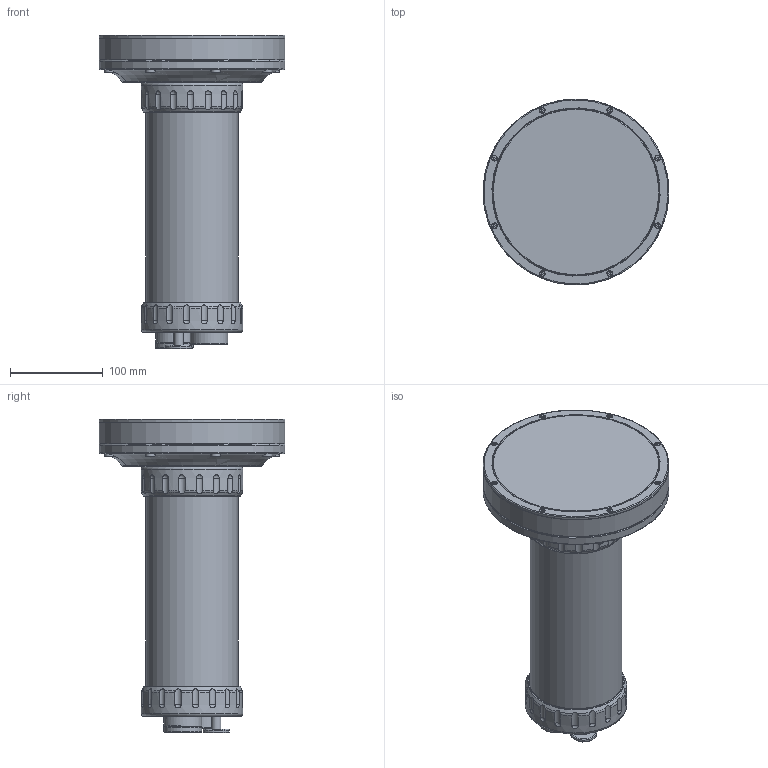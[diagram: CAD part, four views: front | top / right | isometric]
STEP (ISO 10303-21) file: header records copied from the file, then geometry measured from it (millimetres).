
FILE_DESCRIPTION (( 'STEP AP214' ), '1' );
FILE_NAME ('SeaKing Parametric Sub-Bottom Profiler.STEP', '2014-12-10T12:00:56', ( 'Allan' ), ( 'Microsoft' ), 'SwSTEP 2.0', 'SolidWorks 2013', '' );
FILE_SCHEMA (( 'AUTOMOTIVE_DESIGN' ));
Length unit declared in the file: inch
Products named in the file (1): SeaKing Parametric Sub-Bottom Profiler
Bounding box: 200 x 200 x 337.6 mm (x, y, z)
Surface area: 218002.5 mm2 (no closed solid volume)
Topology: 0 solids, 57 shells, 439 faces, 1670 edges, 1211 vertices
Faces by surface type: plane 169, cylinder 109, torus 64, cone 51, sphere 43, bspline 3
Full cylindrical faces by diameter (mm): 1.5 x6, 3.43 x8, 7 x7, 9.8 x1, 10 x10, 11 x7, 11.69 x1, 21.94 x1, 28 x1, 40.7 x3, 91 x1, 91.55 x1, 99 x1, 100.54 x2, 109.64 x2, 180 x1, 200 x3
Entity records: 25069 total; most frequent: CARTESIAN_POINT 7017, DIRECTION 2430, ORIENTED_EDGE 2079, EDGE_CURVE 1399, VERTEX_POINT 1122, AXIS2_PLACEMENT_3D 818, VECTOR 794, LINE 794
